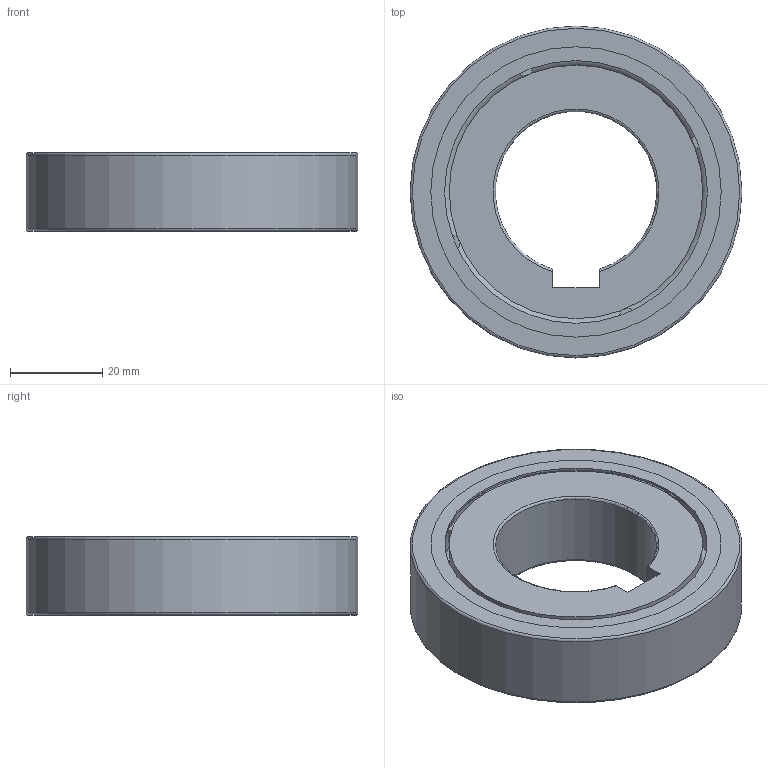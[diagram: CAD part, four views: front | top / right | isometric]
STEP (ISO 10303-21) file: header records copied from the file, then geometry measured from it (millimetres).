
FILE_DESCRIPTION(/* description */ (''),/* implementation_level */ '2;1');
FILE_NAME(/* name */ '301156 FKN 6207.stp',/* time_stamp */ '2016-11-24T09:46:05+01:00',/* author */ (''),/* organization */ (''),/* preprocessor_version */ 'ST-DEVELOPER v15',/* originating_system */ 'SIEMENS PLM Software NX 8.5',/* authorisation */ '');
FILE_SCHEMA (('CONFIG_CONTROL_DESIGN'));
Length unit declared in the file: millimetre
Products named in the file (3): ATE0000079_01; ATE0000114_01; ATE0000115_01
Assembly tree (2 placements, depth 2):
  ATE0000115_01
    ATE0000114_01
    ATE0000079_01
Bounding box: 72 x 72 x 17 mm (x, y, z)
Volume: 44643.7 mm3; surface area: 21863 mm2
Topology: 3 solids, 3 shells, 71 faces, 161 edges, 106 vertices
Faces by surface type: plane 45, cylinder 20, torus 6
Full cylindrical faces by diameter (mm): 55 x2, 57 x1, 59 x1, 61 x1, 62 x2, 63 x3, 72 x1
Entity records: 2241 total; most frequent: CARTESIAN_POINT 381, DIRECTION 342, ORIENTED_EDGE 276, EDGE_CURVE 138, AXIS2_PLACEMENT_3D 134, EDGE_LOOP 104, VERTEX_POINT 100, LINE 74
